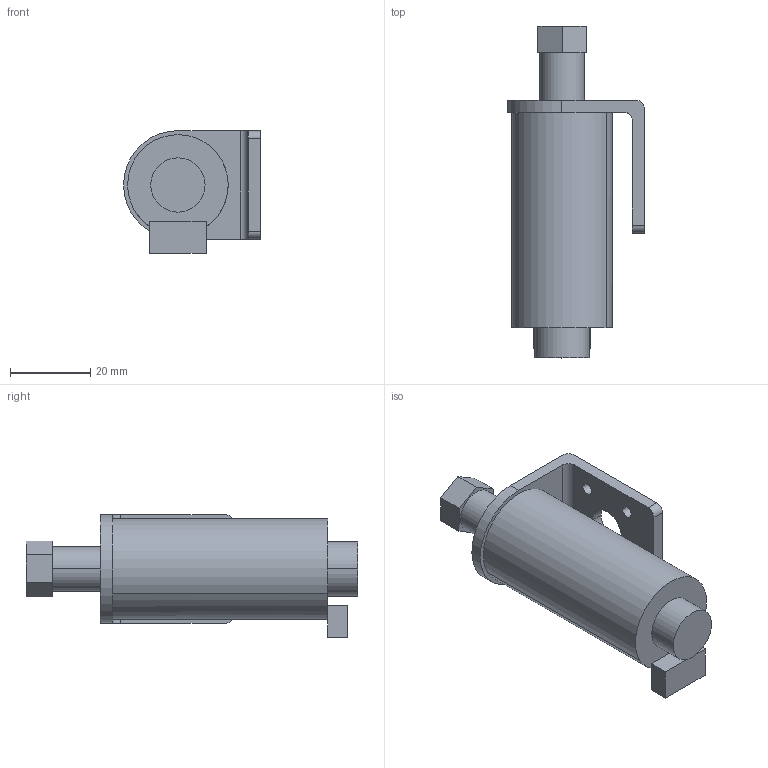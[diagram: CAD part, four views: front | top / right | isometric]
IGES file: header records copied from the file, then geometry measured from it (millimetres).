
Start section: START RECORD GO HERE.
Global section: file name: MOTOR.igs; native system: DASSAULT SYSTEMES CATIA V5 R21 - www.3ds.com; preprocessor: CATIA Version 5 Release 21 ; author: luisg; organization: DESKTOP-0B5R3KV; date: 20241124.231501; units: millimetre
Bounding box: 34 x 82.5 x 30.5 mm (x, y, z)
Surface area: 9642.9 mm2 (no closed solid volume)
Topology: 0 solids, 0 shells, 51 faces, 248 edges, 248 vertices
Faces by surface type: plane 26, revolution 25
